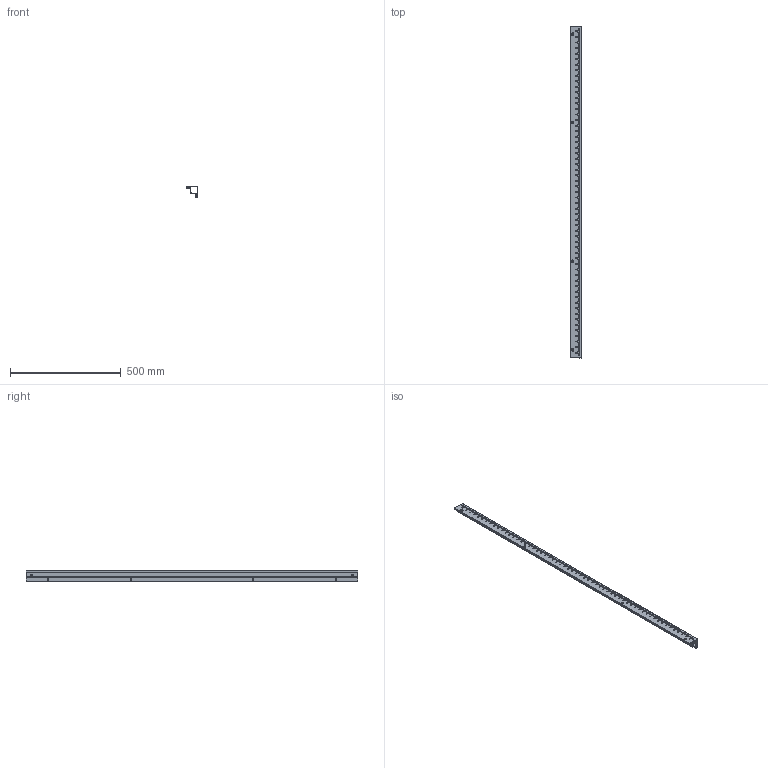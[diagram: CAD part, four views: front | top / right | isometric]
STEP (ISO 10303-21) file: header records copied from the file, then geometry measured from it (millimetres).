
FILE_DESCRIPTION(('Open CASCADE Model'),'2;1');
FILE_NAME('Open CASCADE Shape Model','2025-01-27T17:01:32',('Author'),( 'Open CASCADE'),'Open CASCADE STEP processor 7.8','Open CASCADE 7.8' ,'Unknown');
FILE_SCHEMA(('AUTOMOTIVE_DESIGN { 1 0 10303 214 1 1 1 1 }'));
Length unit declared in the file: millimetre
Products named in the file (2): Compound1; Solid1
Assembly tree (1 placements, depth 2):
  Compound1
    Solid1
Bounding box: 49.7 x 1499 x 49.7 mm (x, y, z)
Volume: 363636.4 mm3; surface area: 555670.6 mm2
Topology: 1 solids, 1 shells, 2377 faces, 7038 edges, 4692 vertices
Faces by surface type: cylinder 1438, plane 939
Full cylindrical faces by diameter (mm): 4.25 x238, 7 x8, 10 x4, 11 x8
Entity records: 82140 total; most frequent: DIRECTION 14672, CARTESIAN_POINT 14109, ORIENTED_EDGE 14076, EDGE_CURVE 7038, AXIS2_PLACEMENT_3D 5255, VERTEX_POINT 4692, LINE 4162, VECTOR 4162
